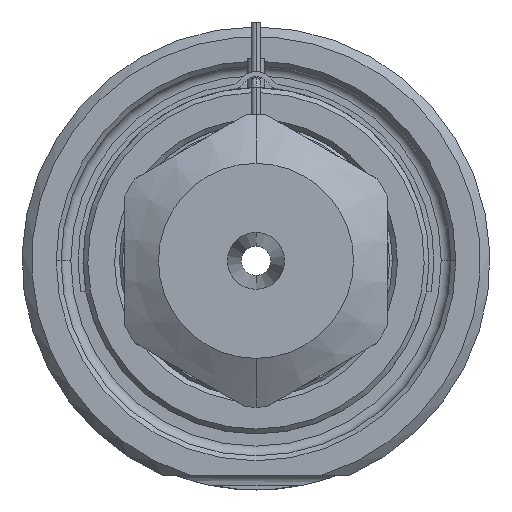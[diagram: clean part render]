
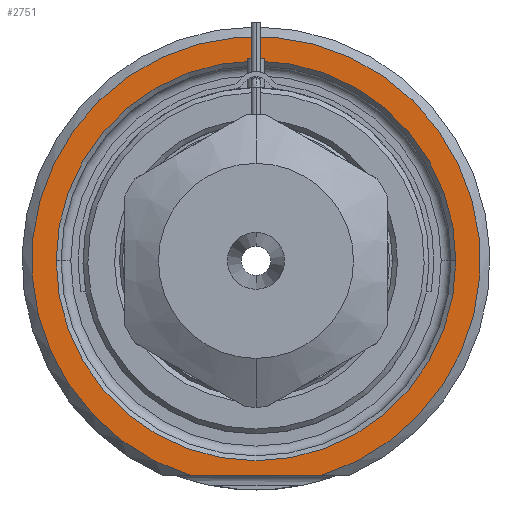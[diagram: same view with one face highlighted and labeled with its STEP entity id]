
A CAD part, front view. The second image highlights one B-rep face of the part: STEP entity #2751.
In plain terms, the highlighted planar face has unit normal (0, -1, 0).
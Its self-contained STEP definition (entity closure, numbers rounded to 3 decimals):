
#1=DIRECTION('',(1.,0.,0.));
#2=VECTOR('',#1,13.416);
#3=CARTESIAN_POINT('',(-6.708,0.,-22.));
#4=LINE('',#3,#2);
#5=CARTESIAN_POINT('',(0.,0.,0.));
#6=DIRECTION('',(0.,1.,0.));
#7=DIRECTION('',(-1.,0.,0.));
#8=AXIS2_PLACEMENT_3D('',#5,#6,#7);
#10=CARTESIAN_POINT('',(0.,0.,0.));
#11=DIRECTION('',(0.,1.,0.));
#12=DIRECTION('',(1.,0.,0.));
#13=AXIS2_PLACEMENT_3D('',#10,#11,#12);
#121=CARTESIAN_POINT('',(0.,0.,0.));
#122=DIRECTION('',(0.,-1.,0.));
#123=DIRECTION('',(0.292,0.,-0.957));
#124=AXIS2_PLACEMENT_3D('',#121,#122,#123);
#2275=CARTESIAN_POINT('',(-20.5,0.,0.));
#2276=CARTESIAN_POINT('',(20.5,0.,0.));
#2277=VERTEX_POINT('',#2275);
#2278=VERTEX_POINT('',#2276);
#2315=CARTESIAN_POINT('',(-6.708,0.,-22.));
#2316=CARTESIAN_POINT('',(6.708,0.,-22.));
#2317=VERTEX_POINT('',#2315);
#2318=VERTEX_POINT('',#2316);
#2734=CARTESIAN_POINT('',(0.,0.,0.));
#2735=DIRECTION('',(0.,-1.,0.));
#2736=DIRECTION('',(1.,0.,0.));
#2737=AXIS2_PLACEMENT_3D('',#2734,#2735,#2736);
#2738=PLANE('',#2737);
#2740=ORIENTED_EDGE('',*,*,#2739,.F.);
#2742=ORIENTED_EDGE('',*,*,#2741,.F.);
#2743=EDGE_LOOP('',(#2740,#2742));
#2744=FACE_OUTER_BOUND('',#2743,.F.);
#2746=ORIENTED_EDGE('',*,*,#2745,.F.);
#2748=ORIENTED_EDGE('',*,*,#2747,.F.);
#2749=EDGE_LOOP('',(#2746,#2748));
#2750=FACE_BOUND('',#2749,.F.);
#2751=ADVANCED_FACE('',(#2744,#2750),#2738,.T.);
#9=CIRCLE('',#8,20.5);
#14=CIRCLE('',#13,20.5);
#125=CIRCLE('',#124,23.);
#2739=EDGE_CURVE('',#2317,#2318,#4,.T.);
#2741=EDGE_CURVE('',#2318,#2317,#125,.T.);
#2745=EDGE_CURVE('',#2277,#2278,#9,.T.);
#2747=EDGE_CURVE('',#2278,#2277,#14,.T.);
